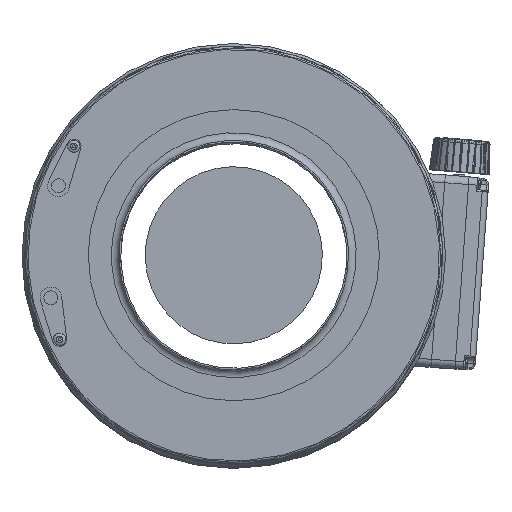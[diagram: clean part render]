
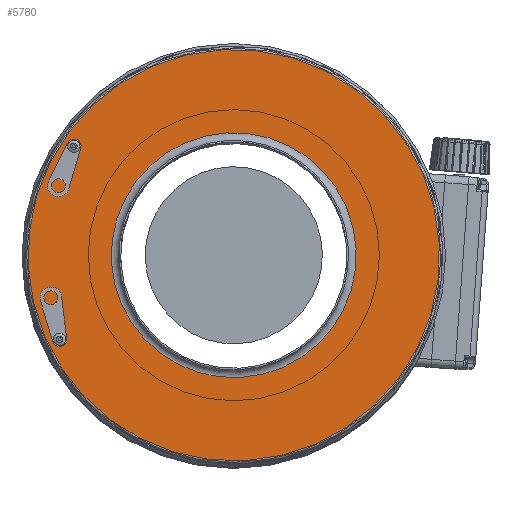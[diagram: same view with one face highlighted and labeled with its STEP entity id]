
A CAD part, top view. The second image highlights one B-rep face of the part: STEP entity #5780.
In plain terms, the highlighted planar face has unit normal (0, 0, 1).
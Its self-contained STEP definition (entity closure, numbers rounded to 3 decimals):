
#1797 = AXIS2_PLACEMENT_3D ( 'NONE', #22273, #22131, #29354 ) ;
#1819 = EDGE_CURVE ( 'NONE', #27231, #27231, #18500, .T. ) ;
#2342 = DIRECTION ( 'NONE',  ( 0.893, -0.45, 0. ) ) ;
#2358 = ORIENTED_EDGE ( 'NONE', *, *, #10043, .F. ) ;
#4182 = AXIS2_PLACEMENT_3D ( 'NONE', #20605, #11251, #13823 ) ;
#5051 = EDGE_LOOP ( 'NONE', ( #12825 ) ) ;
#5780 = ADVANCED_FACE ( 'NONE', ( #27292, #13123, #28957, #26987 ), #15380, .T. ) ;
#6512 = DIRECTION ( 'NONE',  ( 0., 0., 1. ) ) ;
#7019 = AXIS2_PLACEMENT_3D ( 'NONE', #8618, #6512, #22484 ) ;
#7085 = EDGE_LOOP ( 'NONE', ( #12690 ) ) ;
#7161 = DIRECTION ( 'NONE',  ( 0., 0., -1. ) ) ;
#7177 = VERTEX_POINT ( 'NONE', #25728 ) ;
#7234 = EDGE_CURVE ( 'NONE', #7177, #7177, #20542, .T. ) ;
#8307 = EDGE_LOOP ( 'NONE', ( #2358 ) ) ;
#8618 = CARTESIAN_POINT ( 'NONE',  ( -35.77, -70.998, 548.1 ) ) ;
#10043 = EDGE_CURVE ( 'NONE', #23904, #23904, #10740, .T. ) ;
#10740 = CIRCLE ( 'NONE', #24222, 133.6 ) ;
#11251 = DIRECTION ( 'NONE',  ( 0., 0., 1. ) ) ;
#12690 = ORIENTED_EDGE ( 'NONE', *, *, #1819, .T. ) ;
#12825 = ORIENTED_EDGE ( 'NONE', *, *, #7234, .F. ) ;
#13123 = FACE_BOUND ( 'NONE', #18952, .T. ) ;
#13823 = DIRECTION ( 'NONE',  ( -0.893, 0.45, 0. ) ) ;
#15056 = VERTEX_POINT ( 'NONE', #24282 ) ;
#15314 = DIRECTION ( 'NONE',  ( 0.893, -0.45, 0. ) ) ;
#15380 = PLANE ( 'NONE',  #7019 ) ;
#18014 = AXIS2_PLACEMENT_3D ( 'NONE', #28746, #21971, #15314 ) ;
#18500 = CIRCLE ( 'NONE', #18014, 79.5 ) ;
#18952 = EDGE_LOOP ( 'NONE', ( #29466 ) ) ;
#20289 = CARTESIAN_POINT ( 'NONE',  ( 70.998, -35.77, 548.1 ) ) ;
#20542 = CIRCLE ( 'NONE', #4182, 2.1 ) ;
#20605 = CARTESIAN_POINT ( 'NONE',  ( -113.118, -54.586, 548.1 ) ) ;
#20865 = CARTESIAN_POINT ( 'NONE',  ( 0., 0., 548.1 ) ) ;
#21971 = DIRECTION ( 'NONE',  ( 0., 0., -1. ) ) ;
#22131 = DIRECTION ( 'NONE',  ( 0., 0., 1. ) ) ;
#22273 = CARTESIAN_POINT ( 'NONE',  ( -103.832, 70.67, 548.1 ) ) ;
#22484 = DIRECTION ( 'NONE',  ( -0.893, 0.45, 0. ) ) ;
#23225 = EDGE_CURVE ( 'NONE', #15056, #15056, #28734, .T. ) ;
#23904 = VERTEX_POINT ( 'NONE', #24191 ) ;
#24191 = CARTESIAN_POINT ( 'NONE',  ( 119.313, -60.112, 548.1 ) ) ;
#24222 = AXIS2_PLACEMENT_3D ( 'NONE', #20865, #7161, #2342 ) ;
#24282 = CARTESIAN_POINT ( 'NONE',  ( -105.708, 71.615, 548.1 ) ) ;
#25728 = CARTESIAN_POINT ( 'NONE',  ( -114.993, -53.642, 548.1 ) ) ;
#26987 = FACE_OUTER_BOUND ( 'NONE', #8307, .T. ) ;
#27231 = VERTEX_POINT ( 'NONE', #20289 ) ;
#27292 = FACE_BOUND ( 'NONE', #5051, .T. ) ;
#28734 = CIRCLE ( 'NONE', #1797, 2.1 ) ;
#28746 = CARTESIAN_POINT ( 'NONE',  ( 0., 0., 548.1 ) ) ;
#28957 = FACE_BOUND ( 'NONE', #7085, .T. ) ;
#29354 = DIRECTION ( 'NONE',  ( -0.893, 0.45, 0. ) ) ;
#29466 = ORIENTED_EDGE ( 'NONE', *, *, #23225, .F. ) ;
